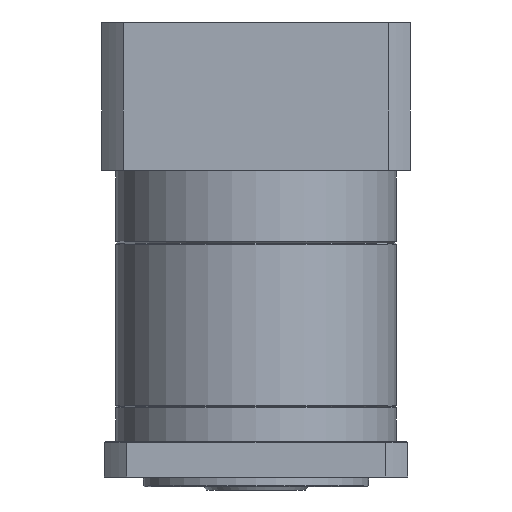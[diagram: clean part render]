
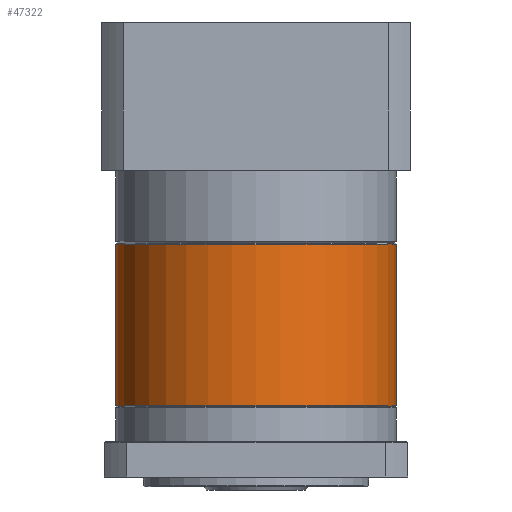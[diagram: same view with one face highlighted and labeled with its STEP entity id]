
A CAD part, front view. The second image highlights one B-rep face of the part: STEP entity #47322.
In plain terms, the highlighted cylindrical face has radius 81 mm (diameter 162 mm), a partial arc.
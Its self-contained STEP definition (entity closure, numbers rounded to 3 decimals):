
#1088 = CARTESIAN_POINT ( 'NONE',  ( -3.778, 105.693, -76.289 ) ) ;
#4071 = DIRECTION ( 'NONE',  ( 0., 0., -1. ) ) ;
#4979 = VERTEX_POINT ( 'NONE', #1088 ) ;
#6147 = LINE ( 'NONE', #40767, #108076 ) ;
#11217 = FACE_OUTER_BOUND ( 'NONE', #51148, .T. ) ;
#11920 = EDGE_CURVE ( 'NONE', #102712, #46828, #12186, .T. ) ;
#12186 = LINE ( 'NONE', #56148, #18328 ) ;
#12387 = ORIENTED_EDGE ( 'NONE', *, *, #116183, .F. ) ;
#18244 = DIRECTION ( 'NONE',  ( 0., 0., -1. ) ) ;
#18328 = VECTOR ( 'NONE', #18244, 1000. ) ;
#25726 = EDGE_CURVE ( 'NONE', #46828, #40008, #67435, .T. ) ;
#40008 = VERTEX_POINT ( 'NONE', #71359 ) ;
#40488 = DIRECTION ( 'NONE',  ( -1., 0., 0. ) ) ;
#40767 = CARTESIAN_POINT ( 'NONE',  ( -3.778, 105.693, -75.789 ) ) ;
#40945 = CARTESIAN_POINT ( 'NONE',  ( -84.778, 105.693, -169.789 ) ) ;
#46828 = VERTEX_POINT ( 'NONE', #122431 ) ;
#47322 = ADVANCED_FACE ( 'NONE', ( #11217 ), #52878, .T. ) ;
#49296 = CARTESIAN_POINT ( 'NONE',  ( -84.778, 105.693, -76.289 ) ) ;
#51148 = EDGE_LOOP ( 'NONE', ( #12387, #113647, #81233, #53392 ) ) ;
#52878 = CYLINDRICAL_SURFACE ( 'NONE', #96331, 81. ) ;
#53047 = DIRECTION ( 'NONE',  ( 0., 0., 1. ) ) ;
#53392 = ORIENTED_EDGE ( 'NONE', *, *, #25726, .T. ) ;
#56148 = CARTESIAN_POINT ( 'NONE',  ( -165.778, 105.693, -75.789 ) ) ;
#58884 = DIRECTION ( 'NONE',  ( 0., 0., -1. ) ) ;
#59225 = DIRECTION ( 'NONE',  ( -1., 0., 0. ) ) ;
#67435 = CIRCLE ( 'NONE', #115423, 81. ) ;
#71359 = CARTESIAN_POINT ( 'NONE',  ( -3.778, 105.693, -169.789 ) ) ;
#81233 = ORIENTED_EDGE ( 'NONE', *, *, #11920, .T. ) ;
#96331 = AXIS2_PLACEMENT_3D ( 'NONE', #113679, #4071, #105891 ) ;
#97449 = AXIS2_PLACEMENT_3D ( 'NONE', #49296, #118453, #59225 ) ;
#102712 = VERTEX_POINT ( 'NONE', #108289 ) ;
#105891 = DIRECTION ( 'NONE',  ( -1., 0., 0. ) ) ;
#108076 = VECTOR ( 'NONE', #58884, 1000. ) ;
#108289 = CARTESIAN_POINT ( 'NONE',  ( -165.778, 105.693, -76.289 ) ) ;
#113647 = ORIENTED_EDGE ( 'NONE', *, *, #124741, .T. ) ;
#113679 = CARTESIAN_POINT ( 'NONE',  ( -84.778, 105.693, -75.789 ) ) ;
#115423 = AXIS2_PLACEMENT_3D ( 'NONE', #40945, #53047, #40488 ) ;
#116183 = EDGE_CURVE ( 'NONE', #4979, #40008, #6147, .T. ) ;
#118453 = DIRECTION ( 'NONE',  ( 0., 0., -1. ) ) ;
#121253 = CIRCLE ( 'NONE', #97449, 81. ) ;
#122431 = CARTESIAN_POINT ( 'NONE',  ( -165.778, 105.693, -169.789 ) ) ;
#124741 = EDGE_CURVE ( 'NONE', #4979, #102712, #121253, .T. ) ;
